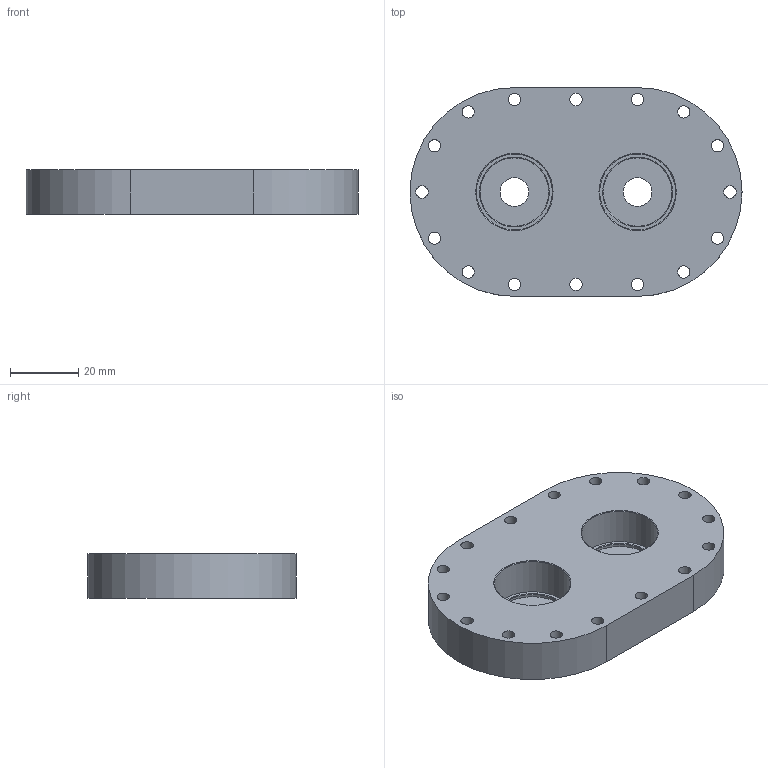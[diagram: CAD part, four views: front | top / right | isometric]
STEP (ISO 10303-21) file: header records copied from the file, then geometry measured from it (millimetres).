
FILE_DESCRIPTION(('FreeCAD Model'),'2;1');
FILE_NAME('Open CASCADE Shape Model','2022-10-12T14:20:45',(''),(''), 'Open CASCADE STEP processor 7.6','FreeCAD','Unknown');
FILE_SCHEMA(('AUTOMOTIVE_DESIGN { 1 0 10303 214 1 1 1 1 }'));
Length unit declared in the file: millimetre
Products named in the file (1): Chamfer
Bounding box: 97 x 61 x 13 mm (x, y, z)
Volume: 53715.1 mm3; surface area: 17754.4 mm2
Topology: 1 solids, 1 shells, 72 faces, 146 edges, 96 vertices
Faces by surface type: cylinder 44, plane 24, cone 4
Full cylindrical faces by diameter (mm): 3.6 x14, 6 x14, 8.4 x2, 20 x2, 22.2 x2
Entity records: 4082 total; most frequent: CARTESIAN_POINT 951, DIRECTION 612, ORIENTED_EDGE 292, PCURVE 292, DEFINITIONAL_REPRESENTATION 292, LINE 250, VECTOR 250, AXIS2_PLACEMENT_3D 165
